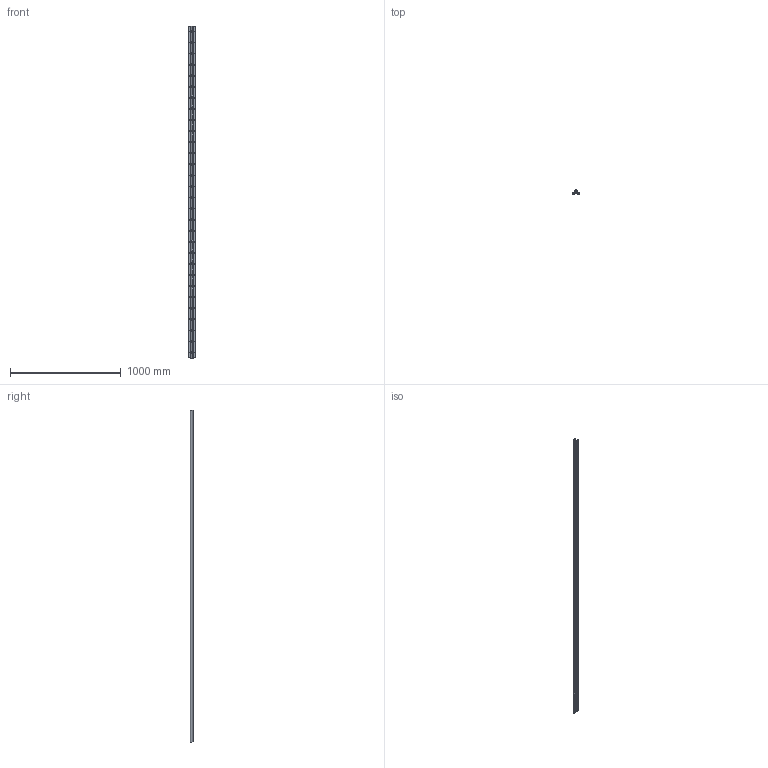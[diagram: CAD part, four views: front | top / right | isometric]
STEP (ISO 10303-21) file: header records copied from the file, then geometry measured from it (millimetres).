
FILE_DESCRIPTION (( 'STEP AP203' ), '1' );
FILE_NAME ('LF 2_-_LF 2 2998 mm lang.step', '2005-06-03T06:16:45', ( ' ' ), ( ' ' ), 'SwSTEP 2.0', 'SolidWorks 2004231', '' );
FILE_SCHEMA (( 'CONFIG_CONTROL_DESIGN' ));
Length unit declared in the file: millimetre
Products named in the file (1): LF 2_-_LF 2  2998 mm lang
Bounding box: 62 x 31 x 2998 mm (x, y, z)
Volume: 2087041.2 mm3; surface area: 676641 mm2
Topology: 1 solids, 1 shells, 1541 faces, 4018 edges, 2418 vertices
Faces by surface type: cylinder 790, plane 511, torus 120, cone 120
Entity records: 47441 total; most frequent: CARTESIAN_POINT 12658, ORIENTED_EDGE 7796, DIRECTION 6646, EDGE_CURVE 3898, VERTEX_POINT 2418, AXIS2_PLACEMENT_3D 2406, VECTOR 1834, LINE 1834
